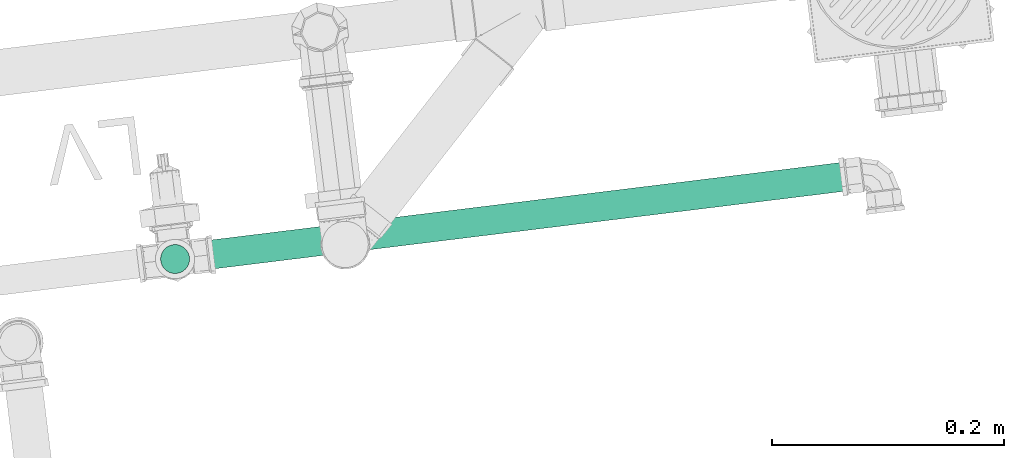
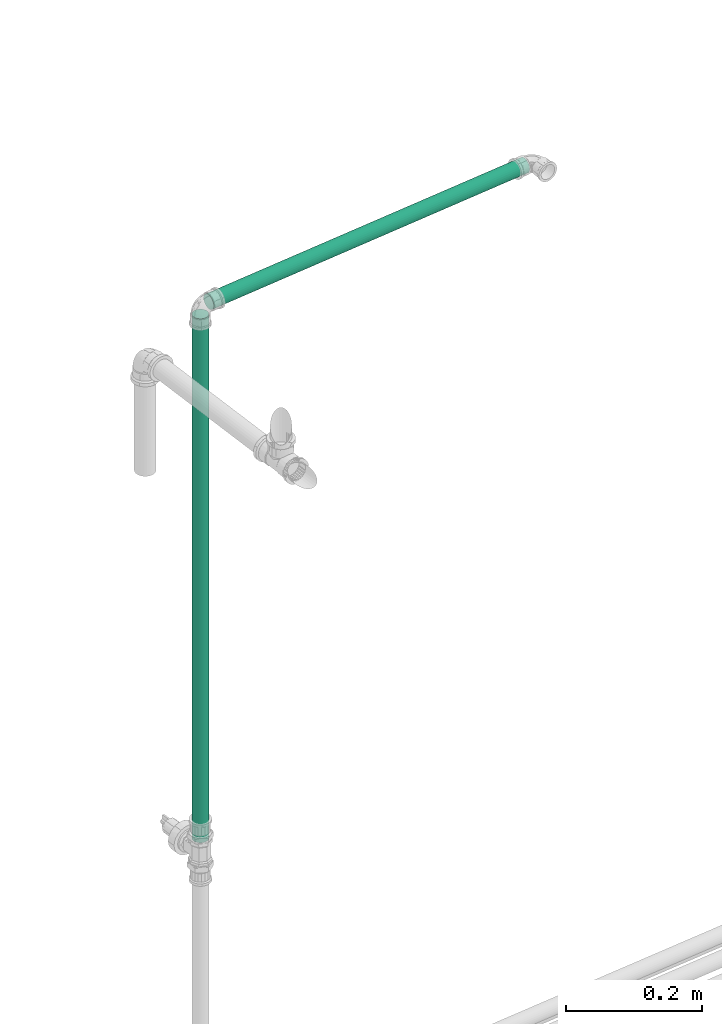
# One storey, part 52 of 97: 2 flow segments.
"""IFC2X3 building model written with IfcOpenShell, lengths in centimetres."""

from ifc_helpers import new_model, entity, si_unit, converted_unit, derived_unit, direction, frame, frame_2d, origin, origin_2d_with_axis, place, context, subcontext, project, spatial, circle, extrude, type_object, element, save


model = new_model("IFC2X3")

# Units and contexts
model_context = context("Model", 3, precision=0.001, world=origin(), true_north=direction((6.12303176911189e-17, 1.0)))
body_context = subcontext(model_context, "Body", "Model", "MODEL_VIEW")
ifc_project = project(units=[si_unit("LENGTHUNIT", "METRE", prefix="CENTI"), si_unit("AREAUNIT", "SQUARE_METRE"), si_unit("VOLUMEUNIT", "CUBIC_METRE"), converted_unit("PLANEANGLEUNIT", "DEGREE", entity("IfcRatioMeasure", 0.0174532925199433), si_unit("PLANEANGLEUNIT", "RADIAN"), dimensions=[0, 0, 0, 0, 0, 0, 0]), si_unit("MASSUNIT", "GRAM", prefix="KILO"), derived_unit("MASSDENSITYUNIT", [(si_unit("MASSUNIT", "GRAM", prefix="KILO"), 1), (si_unit("LENGTHUNIT", "METRE"), -3)]), derived_unit("MOMENTOFINERTIAUNIT", [(si_unit("LENGTHUNIT", "METRE"), 4)]), si_unit("TIMEUNIT", "SECOND"), si_unit("FREQUENCYUNIT", "HERTZ"), si_unit("THERMODYNAMICTEMPERATUREUNIT", "DEGREE_CELSIUS"), derived_unit("THERMALTRANSMITTANCEUNIT", [(si_unit("MASSUNIT", "GRAM", prefix="KILO"), 1), (si_unit("THERMODYNAMICTEMPERATUREUNIT", "KELVIN"), -1), (si_unit("TIMEUNIT", "SECOND"), -3)]), derived_unit("VOLUMETRICFLOWRATEUNIT", [(si_unit("LENGTHUNIT", "METRE"), 3), (si_unit("TIMEUNIT", "SECOND"), -1)]), si_unit("ELECTRICCURRENTUNIT", "AMPERE"), si_unit("ELECTRICVOLTAGEUNIT", "VOLT"), si_unit("POWERUNIT", "WATT"), si_unit("FORCEUNIT", "NEWTON", prefix="KILO"), si_unit("ILLUMINANCEUNIT", "LUX"), si_unit("LUMINOUSFLUXUNIT", "LUMEN"), si_unit("LUMINOUSINTENSITYUNIT", "CANDELA"), derived_unit("USERDEFINED", [(si_unit("MASSUNIT", "GRAM", prefix="KILO"), -1), (si_unit("LENGTHUNIT", "METRE"), -2), (si_unit("TIMEUNIT", "SECOND"), 3), (si_unit("LUMINOUSFLUXUNIT", "LUMEN"), 1)]), derived_unit("LINEARVELOCITYUNIT", [(si_unit("LENGTHUNIT", "METRE"), 1), (si_unit("TIMEUNIT", "SECOND"), -1)]), si_unit("PRESSUREUNIT", "PASCAL"), derived_unit("USERDEFINED", [(si_unit("LENGTHUNIT", "METRE"), -2), (si_unit("MASSUNIT", "GRAM", prefix="KILO"), 1), (si_unit("TIMEUNIT", "SECOND"), -2)]), derived_unit("LINEARFORCEUNIT", [(si_unit("MASSUNIT", "GRAM", prefix="KILO"), 1), (si_unit("LENGTHUNIT", "METRE"), 1), (si_unit("TIMEUNIT", "SECOND"), -2), (si_unit("LENGTHUNIT", "METRE"), -1)]), derived_unit("PLANARFORCEUNIT", [(si_unit("MASSUNIT", "GRAM", prefix="KILO"), 1), (si_unit("LENGTHUNIT", "METRE"), 1), (si_unit("TIMEUNIT", "SECOND"), -2), (si_unit("LENGTHUNIT", "METRE"), -2)])], contexts=[model_context])

# Site, building, storey
site_placement = place(None, origin())
site = spatial("IfcSite", under=ifc_project, at=site_placement, Name="Default", CompositionType="ELEMENT")
building_placement = place(site_placement, origin())
building = spatial("IfcBuilding", under=site, at=building_placement, Name="HIDROSSANITÁRIO", CompositionType="ELEMENT")
storey_placement = place(building_placement, frame((0.0, 0.0, -260.0)))
storey = spatial("IfcBuildingStorey", under=building, at=storey_placement, Name="TÉRREO-HID", CompositionType="ELEMENT", Elevation=-260.0)

# Flow segments
pipe_segment_type = type_object("IfcPipeSegmentType", Name="Tipos de tubos:Tubo Marrom - Água Fria - Soldável", PredefinedType="NOTDEFINED")
flow_segment_1_placement = place(storey_placement, origin())
element("IfcFlowSegment", 1, at=flow_segment_1_placement, inside=storey, type_object=pipe_segment_type, Name="Tipos de tubos:Tubo Marrom - Água Fria - Soldável", ObjectType="Tipos de tubos:Tubo Marrom - Água Fria - Soldável", context=body_context, shape_type="SweptSolid", body=[
    extrude(circle(Radius=1.25, at=frame_2d((1.29449020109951e-21, -1.05179755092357e-20), x_axis=(1.0, 0.0))), frame((-1655.06244479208, 3152.17622329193, 182.0), z_axis=(9.56342780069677e-08, -7.77046433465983e-07, 1.0), x_axis=(-1.0, 0.0, 9.56342780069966e-08)), (0.0, 0.0, 1.0), 93.8502679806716),
])
flow_segment_2_placement = place(storey_placement, origin())
element("IfcFlowSegment", 2, at=flow_segment_2_placement, inside=storey, type_object=pipe_segment_type, Name="Tipos de tubos:Tubo Marrom - Água Fria - Soldável", ObjectType="Tipos de tubos:Tubo Marrom - Água Fria - Soldável", context=body_context, shape_type="SweptSolid", body=[
    extrude(circle(Radius=1.25, at=origin_2d_with_axis()), frame((-1653.53396833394, 3152.36426510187, 277.390267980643), z_axis=(0.992511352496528, 0.122152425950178, 0.0), x_axis=(0.122152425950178, -0.992511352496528, 0.0)), (0.0, 0.0, 1.0), 58.0434238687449),
])

save(model, "model.ifc")
